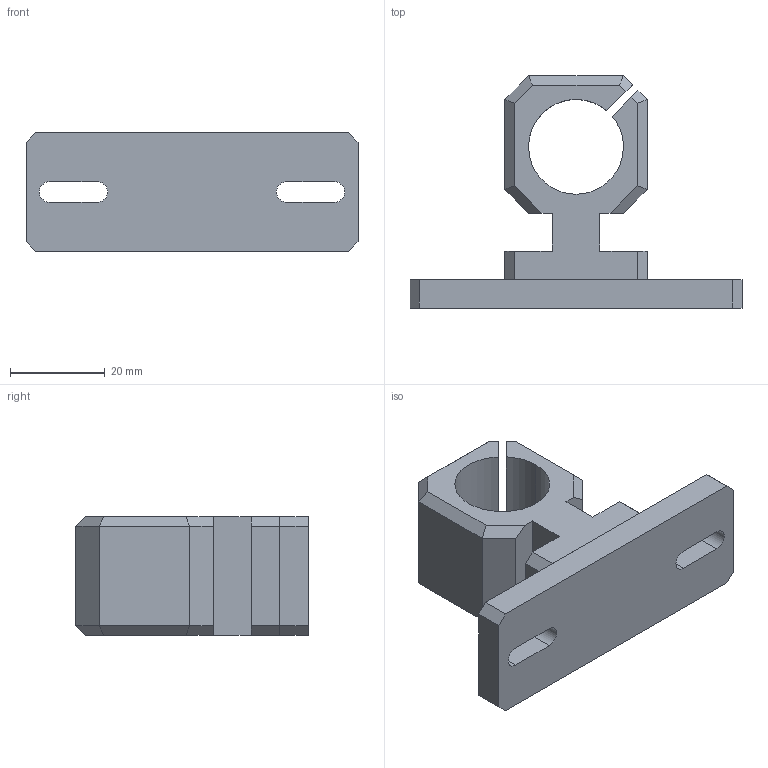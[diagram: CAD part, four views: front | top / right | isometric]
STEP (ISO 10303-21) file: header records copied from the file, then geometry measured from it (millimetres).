
FILE_DESCRIPTION (( 'STEP AP203' ), '1' );
FILE_NAME ('B-FD-J.STEP', '2011-12-20T14:32:53', ( '' ), ( '' ), 'SwSTEP 2.0', 'SolidWorks 2010', '' );
FILE_SCHEMA (( 'CONFIG_CONTROL_DESIGN' ));
Length unit declared in the file: millimetre
Products named in the file (3): B2-FD-J_Roh_mec001500 Klemmung; B-FD-J; B2-FD-J_Roh_mec001510 MontPlatte
Assembly tree (2 placements, depth 2):
  B-FD-J
    B2-FD-J_Roh_mec001510 MontPlatte
    B2-FD-J_Roh_mec001500 Klemmung
Bounding box: 70 x 49 x 25 mm (x, y, z)
Volume: 28201.2 mm3; surface area: 12238.6 mm2
Topology: 2 solids, 2 shells, 64 faces, 168 edges, 108 vertices
Faces by surface type: plane 55, cylinder 9
Entity records: 2247 total; most frequent: CARTESIAN_POINT 345, ORIENTED_EDGE 336, DIRECTION 324, EDGE_CURVE 168, LINE 150, VECTOR 150, VERTEX_POINT 108, AXIS2_PLACEMENT_3D 87
